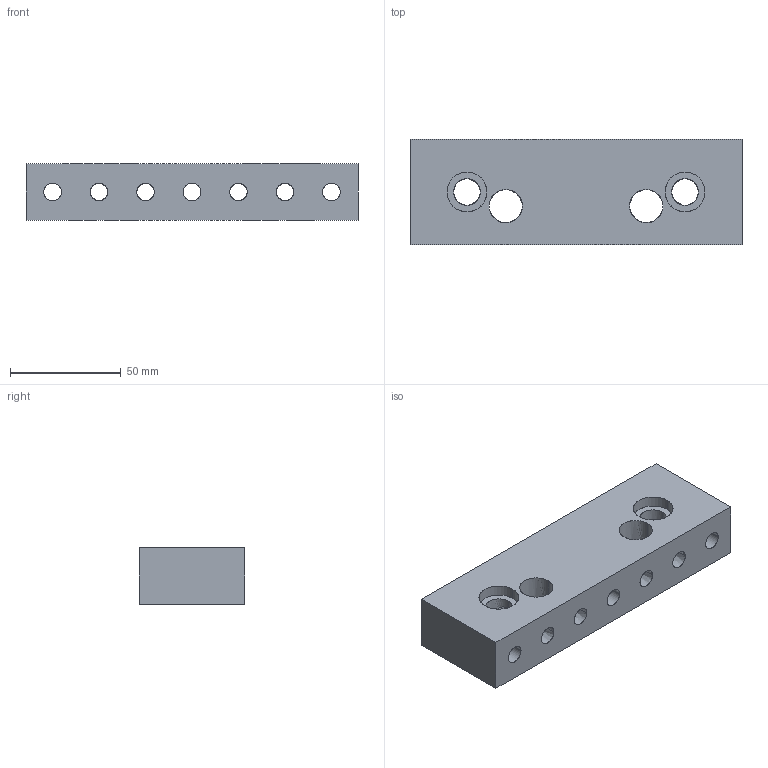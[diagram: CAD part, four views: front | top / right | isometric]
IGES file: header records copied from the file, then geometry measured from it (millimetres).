
Start section: SolidWorks IGES file using analytic representation for surfaces
Global section: file name: C:\Users\liam_\OneDrive\Documents\WORK\Work for WixRoyd\Job Files\J-00028 - Matt Davis CAD - 20191222\Wixroyd20191222\12037_v2\12037_v2_2020102_IGES\12037.W0015.igs; native system: SolidWorks 2017; preprocessor: SolidWorks 2017; author: liam_; date: 200102.205314; units: millimetre
Bounding box: 150 x 47.75 x 25.4 mm (x, y, z)
Surface area: 36587.2 mm2 (no closed solid volume)
Topology: 0 solids, 0 shells, 55 faces, 1888 edges, 1888 vertices
Faces by surface type: revolution 40, bspline 15
